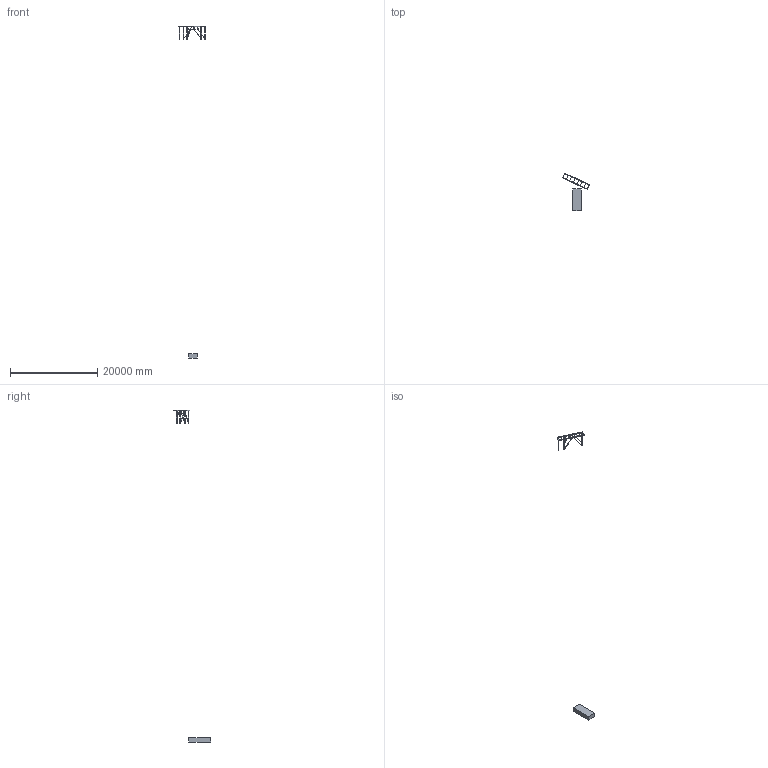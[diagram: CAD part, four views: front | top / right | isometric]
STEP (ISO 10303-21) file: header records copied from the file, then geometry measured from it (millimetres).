
FILE_DESCRIPTION(/* description */ (''),/* implementation_level */ '2;1');
FILE_NAME(/* name */ 'm_in0_rx_corextower.stp',/* time_stamp */ '2012-05-21T12:16:18+02:00',/* author */ (''),/* organization */ (''),/* preprocessor_version */ 'ST-DEVELOPER v11',/* originating_system */ 'SIEMENS PLM Software NX 7.5',/* authorisation */ '');
FILE_SCHEMA (('AUTOMOTIVE_DESIGN { 1 0 10303 214 1 1 1 1 }'));
Length unit declared in the file: millimetre
Products named in the file (1): atw11D3Ed09i
Bounding box: 6153.41 x 8491.58 x 75994 mm (x, y, z)
Volume: 10111181923 mm3; surface area: 62066602.1 mm2
Topology: 21 solids, 21 shells, 224 faces, 546 edges, 364 vertices
Faces by surface type: plane 224
Entity records: 8099 total; most frequent: CARTESIAN_POINT 1135, ORIENTED_EDGE 1092, DIRECTION 996, EDGE_CURVE 546, LINE 546, VECTOR 546, VERTEX_POINT 364, PRESENTATION_STYLE_ASSIGNMENT 239
